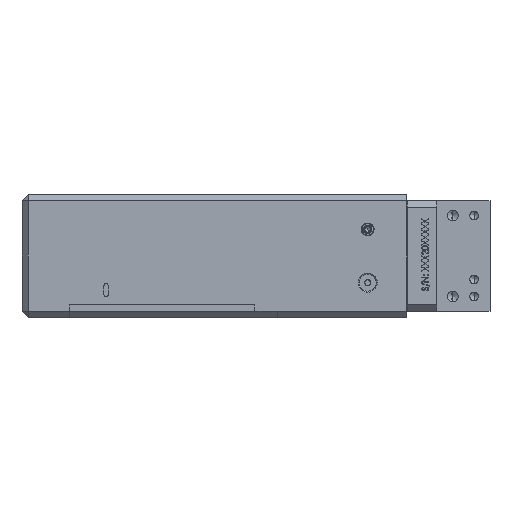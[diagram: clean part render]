
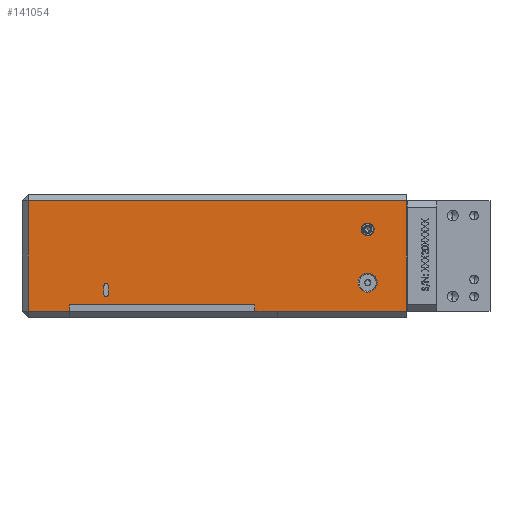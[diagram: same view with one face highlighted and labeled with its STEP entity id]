
A CAD part, left-side view. The second image highlights one B-rep face of the part: STEP entity #141054.
In plain terms, the highlighted planar face has unit normal (-1, 0, 0).
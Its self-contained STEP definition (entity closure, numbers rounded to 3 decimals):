
#3487 = EDGE_CURVE ( 'NONE', #129292, #157457, #138248, .T. ) ;
#3561 = ORIENTED_EDGE ( 'NONE', *, *, #13441, .T. ) ;
#3639 = DIRECTION ( 'NONE',  ( 0., 0., 1. ) ) ;
#7238 = EDGE_CURVE ( 'NONE', #148346, #19484, #91207, .T. ) ;
#7263 = ORIENTED_EDGE ( 'NONE', *, *, #129459, .T. ) ;
#8502 = VECTOR ( 'NONE', #65711, 1000. ) ;
#9965 = AXIS2_PLACEMENT_3D ( 'NONE', #20930, #131706, #34368 ) ;
#10317 = LINE ( 'NONE', #34265, #71630 ) ;
#11579 = AXIS2_PLACEMENT_3D ( 'NONE', #156364, #102391, #171042 ) ;
#12270 = FACE_BOUND ( 'NONE', #100171, .T. ) ;
#12279 = CARTESIAN_POINT ( 'NONE',  ( -41., 57.5, -12.5 ) ) ;
#13073 = EDGE_CURVE ( 'NONE', #135659, #163129, #181188, .T. ) ;
#13355 = CARTESIAN_POINT ( 'NONE',  ( -41., 97., -26. ) ) ;
#13441 = EDGE_CURVE ( 'NONE', #109176, #81873, #10317, .T. ) ;
#15868 = ORIENTED_EDGE ( 'NONE', *, *, #75501, .F. ) ;
#16111 = VERTEX_POINT ( 'NONE', #103814 ) ;
#19484 = VERTEX_POINT ( 'NONE', #20066 ) ;
#20066 = CARTESIAN_POINT ( 'NONE',  ( -41., 62., -12.5 ) ) ;
#20930 = CARTESIAN_POINT ( 'NONE',  ( -41., 180.5, -18. ) ) ;
#22913 = EDGE_CURVE ( 'NONE', #178536, #99126, #123638, .T. ) ;
#24163 = CARTESIAN_POINT ( 'NONE',  ( -41., 181.5, -14. ) ) ;
#25157 = VECTOR ( 'NONE', #3639, 1000. ) ;
#28192 = AXIS2_PLACEMENT_3D ( 'NONE', #140327, #84638, #69347 ) ;
#28469 = CARTESIAN_POINT ( 'NONE',  ( -41., 220., -26. ) ) ;
#29608 = ORIENTED_EDGE ( 'NONE', *, *, #70236, .F. ) ;
#29990 = CARTESIAN_POINT ( 'NONE',  ( -41., 39.3, 26. ) ) ;
#32410 = CARTESIAN_POINT ( 'NONE',  ( -41., 197.5, -26. ) ) ;
#33589 = CARTESIAN_POINT ( 'NONE',  ( -41., 181.5, -18. ) ) ;
#34265 = CARTESIAN_POINT ( 'NONE',  ( -41., 220., -26. ) ) ;
#34368 = DIRECTION ( 'NONE',  ( 0., 1., 0. ) ) ;
#36300 = FACE_BOUND ( 'NONE', #132647, .T. ) ;
#42007 = VERTEX_POINT ( 'NONE', #83779 ) ;
#42939 = VECTOR ( 'NONE', #70247, 1000. ) ;
#43519 = PLANE ( 'NONE',  #60644 ) ;
#43742 = CARTESIAN_POINT ( 'NONE',  ( -41., 100., -26. ) ) ;
#45846 = CARTESIAN_POINT ( 'NONE',  ( -41., 110.5, -16. ) ) ;
#45933 = AXIS2_PLACEMENT_3D ( 'NONE', #12279, #152997, #124840 ) ;
#47546 = VERTEX_POINT ( 'NONE', #114203 ) ;
#50070 = DIRECTION ( 'NONE',  ( 0., 0., -1. ) ) ;
#50727 = EDGE_CURVE ( 'NONE', #109176, #178536, #84559, .T. ) ;
#53150 = VERTEX_POINT ( 'NONE', #58260 ) ;
#55411 = DIRECTION ( 'NONE',  ( 0., -1., 0. ) ) ;
#55481 = CARTESIAN_POINT ( 'NONE',  ( -41., 39.3, -26. ) ) ;
#57567 = DIRECTION ( 'NONE',  ( 0., -1., 0. ) ) ;
#58071 = DIRECTION ( 'NONE',  ( 0., 0., 1. ) ) ;
#58260 = CARTESIAN_POINT ( 'NONE',  ( -41., 217., -26. ) ) ;
#58678 = CARTESIAN_POINT ( 'NONE',  ( -41., 39.3, 29. ) ) ;
#60223 = VECTOR ( 'NONE', #152060, 1000. ) ;
#60644 = AXIS2_PLACEMENT_3D ( 'NONE', #141441, #111400, #57567 ) ;
#61342 = ORIENTED_EDGE ( 'NONE', *, *, #50727, .F. ) ;
#63898 = CARTESIAN_POINT ( 'NONE',  ( -41., 220., -23. ) ) ;
#65711 = DIRECTION ( 'NONE',  ( 0., 1., 0. ) ) ;
#69347 = DIRECTION ( 'NONE',  ( 0., 1., 0. ) ) ;
#70236 = EDGE_CURVE ( 'NONE', #47546, #142408, #138740, .T. ) ;
#70247 = DIRECTION ( 'NONE',  ( 0., 1., 0. ) ) ;
#71630 = VECTOR ( 'NONE', #88781, 1000. ) ;
#74189 = LINE ( 'NONE', #63898, #8502 ) ;
#74321 = CARTESIAN_POINT ( 'NONE',  ( -41., 197.5, 29. ) ) ;
#74663 = AXIS2_PLACEMENT_3D ( 'NONE', #82918, #109196, #180831 ) ;
#74784 = EDGE_CURVE ( 'NONE', #99126, #157457, #74189, .T. ) ;
#75501 = EDGE_CURVE ( 'NONE', #167938, #16111, #87168, .T. ) ;
#75724 = ORIENTED_EDGE ( 'NONE', *, *, #74784, .F. ) ;
#81468 = CARTESIAN_POINT ( 'NONE',  ( -41., 110.5, -23. ) ) ;
#81873 = VERTEX_POINT ( 'NONE', #55481 ) ;
#82918 = CARTESIAN_POINT ( 'NONE',  ( -41., 57.5, -12.5 ) ) ;
#83081 = LINE ( 'NONE', #105054, #102650 ) ;
#83779 = CARTESIAN_POINT ( 'NONE',  ( -41., 217., 26. ) ) ;
#84311 = LINE ( 'NONE', #179601, #60223 ) ;
#84559 = LINE ( 'NONE', #13355, #42939 ) ;
#84638 = DIRECTION ( 'NONE',  ( -1., 0., 0. ) ) ;
#87168 = CIRCLE ( 'NONE', #28192, 1. ) ;
#87920 = EDGE_LOOP ( 'NONE', ( #75724, #136028, #61342, #3561, #129390, #7263, #119837, #110252, #146814 ) ) ;
#88781 = DIRECTION ( 'NONE',  ( 0., -1., 0. ) ) ;
#91207 = CIRCLE ( 'NONE', #45933, 4.5 ) ;
#91663 = LINE ( 'NONE', #58678, #150844 ) ;
#95371 = VECTOR ( 'NONE', #149198, 1000. ) ;
#95530 = EDGE_CURVE ( 'NONE', #42007, #53150, #83081, .T. ) ;
#98860 = ORIENTED_EDGE ( 'NONE', *, *, #164006, .F. ) ;
#99126 = VERTEX_POINT ( 'NONE', #81468 ) ;
#100171 = EDGE_LOOP ( 'NONE', ( #29608, #98860 ) ) ;
#102188 = LINE ( 'NONE', #28469, #172313 ) ;
#102391 = DIRECTION ( 'NONE',  ( -1., 0., 0. ) ) ;
#102447 = EDGE_CURVE ( 'NONE', #167938, #163129, #84311, .T. ) ;
#102650 = VECTOR ( 'NONE', #50070, 1000. ) ;
#103805 = EDGE_CURVE ( 'NONE', #16111, #135659, #173835, .T. ) ;
#103814 = CARTESIAN_POINT ( 'NONE',  ( -41., 181.5, -14. ) ) ;
#103872 = ORIENTED_EDGE ( 'NONE', *, *, #102447, .T. ) ;
#105054 = CARTESIAN_POINT ( 'NONE',  ( -41., 217., 29. ) ) ;
#107582 = CARTESIAN_POINT ( 'NONE',  ( -41., 110.5, -26. ) ) ;
#109176 = VERTEX_POINT ( 'NONE', #43742 ) ;
#109196 = DIRECTION ( 'NONE',  ( -1., 0., 0. ) ) ;
#109539 = CARTESIAN_POINT ( 'NONE',  ( -41., 179.5, -18. ) ) ;
#110252 = ORIENTED_EDGE ( 'NONE', *, *, #157408, .T. ) ;
#111400 = DIRECTION ( 'NONE',  ( 1., 0., 0. ) ) ;
#113917 = ORIENTED_EDGE ( 'NONE', *, *, #13073, .F. ) ;
#114155 = AXIS2_PLACEMENT_3D ( 'NONE', #135360, #137172, #151253 ) ;
#114203 = CARTESIAN_POINT ( 'NONE',  ( -41., 60.5, 12.5 ) ) ;
#115237 = CARTESIAN_POINT ( 'NONE',  ( -41., 54.5, 12.5 ) ) ;
#118976 = VECTOR ( 'NONE', #150798, 1000. ) ;
#119837 = ORIENTED_EDGE ( 'NONE', *, *, #95530, .T. ) ;
#123638 = LINE ( 'NONE', #45846, #25157 ) ;
#124840 = DIRECTION ( 'NONE',  ( 0., 1., 0. ) ) ;
#125087 = VECTOR ( 'NONE', #172198, 1000. ) ;
#126107 = LINE ( 'NONE', #179161, #95371 ) ;
#126431 = EDGE_CURVE ( 'NONE', #81873, #138586, #91663, .T. ) ;
#127496 = CIRCLE ( 'NONE', #74663, 4.5 ) ;
#128699 = CIRCLE ( 'NONE', #114155, 3. ) ;
#129292 = VERTEX_POINT ( 'NONE', #32410 ) ;
#129390 = ORIENTED_EDGE ( 'NONE', *, *, #126431, .T. ) ;
#129459 = EDGE_CURVE ( 'NONE', #138586, #42007, #126107, .T. ) ;
#131706 = DIRECTION ( 'NONE',  ( -1., 0., 0. ) ) ;
#132647 = EDGE_LOOP ( 'NONE', ( #113917, #145535, #15868, #103872 ) ) ;
#135360 = CARTESIAN_POINT ( 'NONE',  ( -41., 57.5, 12.5 ) ) ;
#135659 = VERTEX_POINT ( 'NONE', #33589 ) ;
#136028 = ORIENTED_EDGE ( 'NONE', *, *, #22913, .F. ) ;
#137172 = DIRECTION ( 'NONE',  ( -1., 0., 0. ) ) ;
#138248 = LINE ( 'NONE', #74321, #125087 ) ;
#138586 = VERTEX_POINT ( 'NONE', #29990 ) ;
#138740 = CIRCLE ( 'NONE', #11579, 3. ) ;
#140327 = CARTESIAN_POINT ( 'NONE',  ( -41., 180.5, -14. ) ) ;
#141054 = ADVANCED_FACE ( 'NONE', ( #36300, #180858, #143629, #12270 ), #43519, .F. ) ;
#141441 = CARTESIAN_POINT ( 'NONE',  ( -41., 220., 29. ) ) ;
#142408 = VERTEX_POINT ( 'NONE', #115237 ) ;
#143629 = FACE_BOUND ( 'NONE', #156287, .T. ) ;
#145535 = ORIENTED_EDGE ( 'NONE', *, *, #103805, .F. ) ;
#146814 = ORIENTED_EDGE ( 'NONE', *, *, #3487, .T. ) ;
#148346 = VERTEX_POINT ( 'NONE', #151332 ) ;
#149198 = DIRECTION ( 'NONE',  ( 0., 1., 0. ) ) ;
#150798 = DIRECTION ( 'NONE',  ( 0., 0., -1. ) ) ;
#150844 = VECTOR ( 'NONE', #58071, 1000. ) ;
#151253 = DIRECTION ( 'NONE',  ( 0., 1., 0. ) ) ;
#151332 = CARTESIAN_POINT ( 'NONE',  ( -41., 53., -12.5 ) ) ;
#152060 = DIRECTION ( 'NONE',  ( 0., 0., -1. ) ) ;
#152643 = ORIENTED_EDGE ( 'NONE', *, *, #7238, .F. ) ;
#152644 = EDGE_CURVE ( 'NONE', #19484, #148346, #127496, .T. ) ;
#152997 = DIRECTION ( 'NONE',  ( -1., 0., 0. ) ) ;
#154126 = ORIENTED_EDGE ( 'NONE', *, *, #152644, .F. ) ;
#155760 = CARTESIAN_POINT ( 'NONE',  ( -41., 197.5, -23. ) ) ;
#156287 = EDGE_LOOP ( 'NONE', ( #154126, #152643 ) ) ;
#156364 = CARTESIAN_POINT ( 'NONE',  ( -41., 57.5, 12.5 ) ) ;
#157408 = EDGE_CURVE ( 'NONE', #53150, #129292, #102188, .T. ) ;
#157457 = VERTEX_POINT ( 'NONE', #155760 ) ;
#163129 = VERTEX_POINT ( 'NONE', #109539 ) ;
#164006 = EDGE_CURVE ( 'NONE', #142408, #47546, #128699, .T. ) ;
#167209 = CARTESIAN_POINT ( 'NONE',  ( -41., 179.5, -14. ) ) ;
#167938 = VERTEX_POINT ( 'NONE', #167209 ) ;
#171042 = DIRECTION ( 'NONE',  ( 0., 1., 0. ) ) ;
#172198 = DIRECTION ( 'NONE',  ( 0., 0., 1. ) ) ;
#172313 = VECTOR ( 'NONE', #55411, 1000. ) ;
#173835 = LINE ( 'NONE', #24163, #118976 ) ;
#178536 = VERTEX_POINT ( 'NONE', #107582 ) ;
#179161 = CARTESIAN_POINT ( 'NONE',  ( -41., 220., 26. ) ) ;
#179601 = CARTESIAN_POINT ( 'NONE',  ( -41., 179.5, -14. ) ) ;
#180831 = DIRECTION ( 'NONE',  ( 0., 1., 0. ) ) ;
#180858 = FACE_OUTER_BOUND ( 'NONE', #87920, .T. ) ;
#181188 = CIRCLE ( 'NONE', #9965, 1. ) ;
